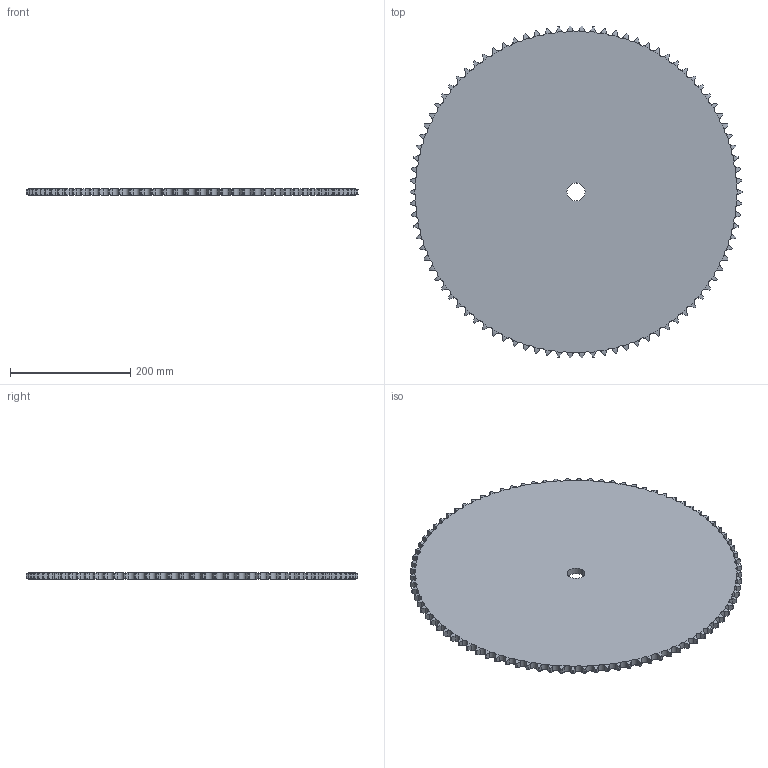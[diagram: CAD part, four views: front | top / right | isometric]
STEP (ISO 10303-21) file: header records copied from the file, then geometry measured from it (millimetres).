
FILE_DESCRIPTION((''),'2;1');
FILE_NAME('500-401-0090_PRT','2021-02-12T',('Brieden'),('Brieden'),'PRO/ENGINEER BY PARAMETRIC TECHNOLOGY CORPORATION, 2010160','PRO/ENGINEER BY PARAMETRIC TECHNOLOGY CORPORATION, 2010160','');
FILE_SCHEMA(('AUTOMOTIVE_DESIGN { 1 0 10303 214 1 1 1 1 }'));
Length unit declared in the file: millimetre
Products named in the file (1): 500-401-0090_PRT
Bounding box: 553.17 x 552.91 x 11.1 mm (x, y, z)
Volume: 2541112.8 mm3; surface area: 486616.1 mm2
Topology: 1 solids, 1 shells, 544 faces, 1626 edges, 1084 vertices
Faces by surface type: cylinder 362, torus 180, plane 2
Entity records: 27364 total; most frequent: CARTESIAN_POINT 8655, ORIENTED_EDGE 3252, DIRECTION 2538, PRESENTATION_STYLE_ASSIGNMENT 1627, STYLED_ITEM 1627, CURVE_STYLE 1626, EDGE_CURVE 1626, AXIS2_PLACEMENT_3D 1088
